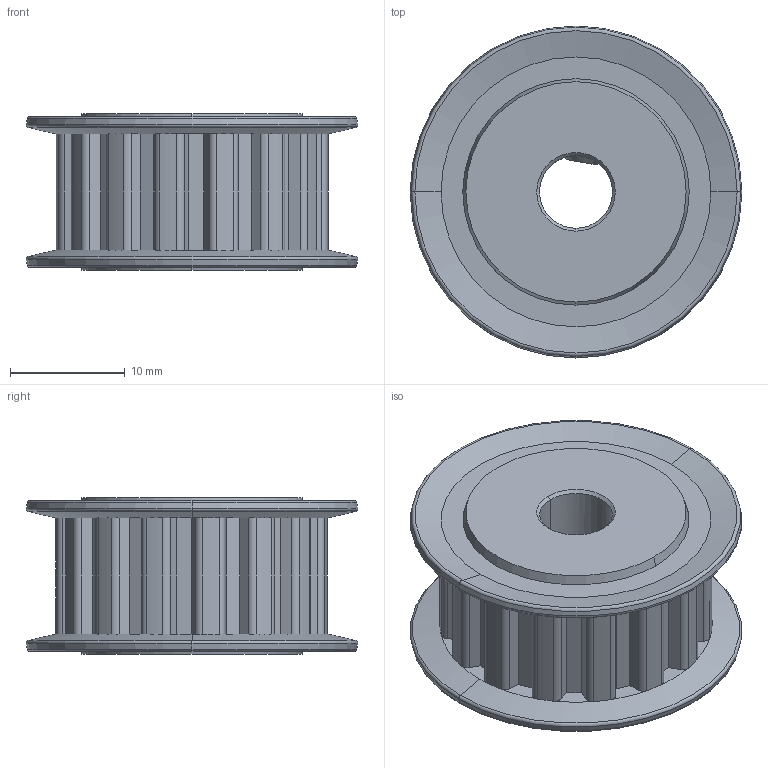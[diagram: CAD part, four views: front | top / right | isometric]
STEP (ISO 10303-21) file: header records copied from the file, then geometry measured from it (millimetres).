
FILE_DESCRIPTION (( 'STEP AP203' ), '1' );
FILE_NAME ('615434 assembly.STEP', '2017-10-27T20:08:26', ( '' ), ( '' ), 'SwSTEP 2.0', 'SolidWorks 2016', '' );
FILE_SCHEMA (( 'CONFIG_CONTROL_DESIGN' ));
Length unit declared in the file: inch
Products named in the file (3): 632138_91375A438; 615434 assembly; 615434
Assembly tree (2 placements, depth 2):
  615434 assembly
    615434
    632138_91375A438
Bounding box: 28.96 x 28.96 x 13.65 mm (x, y, z)
Volume: 5334.1 mm3; surface area: 3779.7 mm2
Topology: 2 solids, 2 shells, 316 faces, 826 edges, 513 vertices
Faces by surface type: cylinder 130, plane 127, cone 39, bspline 12, torus 8
Entity records: 18351 total; most frequent: CARTESIAN_POINT 10657, ORIENTED_EDGE 1644, DIRECTION 1541, EDGE_CURVE 822, AXIS2_PLACEMENT_3D 617, VERTEX_POINT 513, EDGE_LOOP 323, ADVANCED_FACE 316
